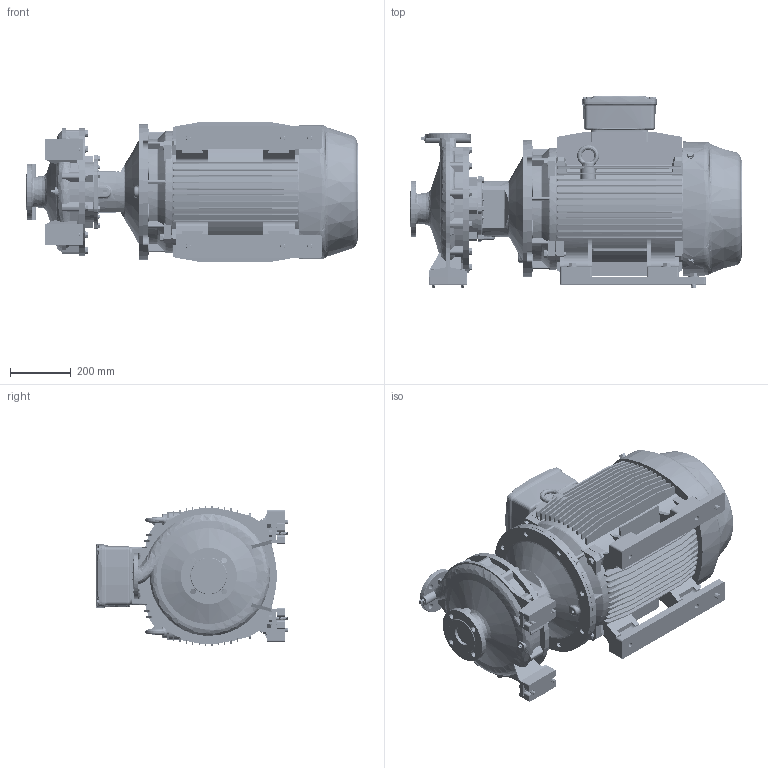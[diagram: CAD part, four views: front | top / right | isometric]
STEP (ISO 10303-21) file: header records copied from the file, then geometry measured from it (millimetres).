
FILE_DESCRIPTION (( 'STEP AP214' ), '1' );
FILE_NAME ('GSD2 40-315_45_(225SM)_W21.STEP', '2026-07-02T06:20:27', ( '' ), ( '' ), 'SwSTEP 2.0', 'SolidWorks 2024', '' );
FILE_SCHEMA (( 'AUTOMOTIVE_DESIGN' ));
Length unit declared in the file: millimetre
Products named in the file (10): GSD2  40-315_45_(225SM)_W21; Parametric bolt_SFT-A355B; Parametric bolt_SFT-A359B; Parametric Flat Washer_M16; 40-315-225S_M; 80x25 -CGSDA-5281 (225) (Offset); 225S_M2P IE3_W21T_B35; Parametric Flat Washer_M12; Parametric bolt_SFT-A309B; CGS11-5311_2_3_4_5_CGS11-5312
Assembly tree (26 placements, depth 2):
  GSD2  40-315_45_(225SM)_W21
    40-315-225S_M
    225S_M2P IE3_W21T_B35
    CGS11-5311_2_3_4_5_CGS11-5312  x2
    80x25 -CGSDA-5281 (225) (Offset)  x2
    Parametric bolt_SFT-A355B  x2
    Parametric bolt_SFT-A359B  x4
    Parametric bolt_SFT-A309B  x4
    Parametric Flat Washer_M12  x4
    Parametric Flat Washer_M16  x6
Bounding box: 1094.5 x 635.5 x 459.72 mm (x, y, z)
Volume: 123212543.9 mm3; surface area: 4453339.4 mm2
Topology: 43 solids, 48 shells, 4372 faces, 11661 edges, 7508 vertices
Faces by surface type: plane 1822, cylinder 1471, cone 520, torus 292, bspline 252, sphere 15
Entity records: 164492 total; most frequent: CARTESIAN_POINT 70924, ORIENTED_EDGE 20508, DIRECTION 18563, EDGE_CURVE 10254, AXIS2_PLACEMENT_3D 6780, VERTEX_POINT 6601, LINE 5003, VECTOR 5003
